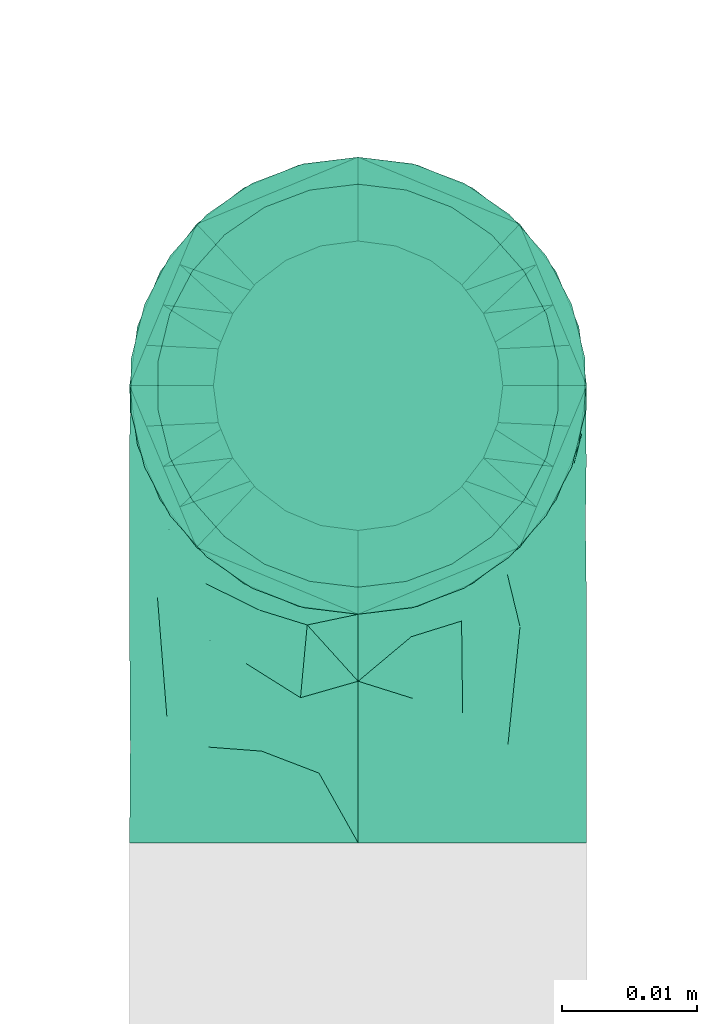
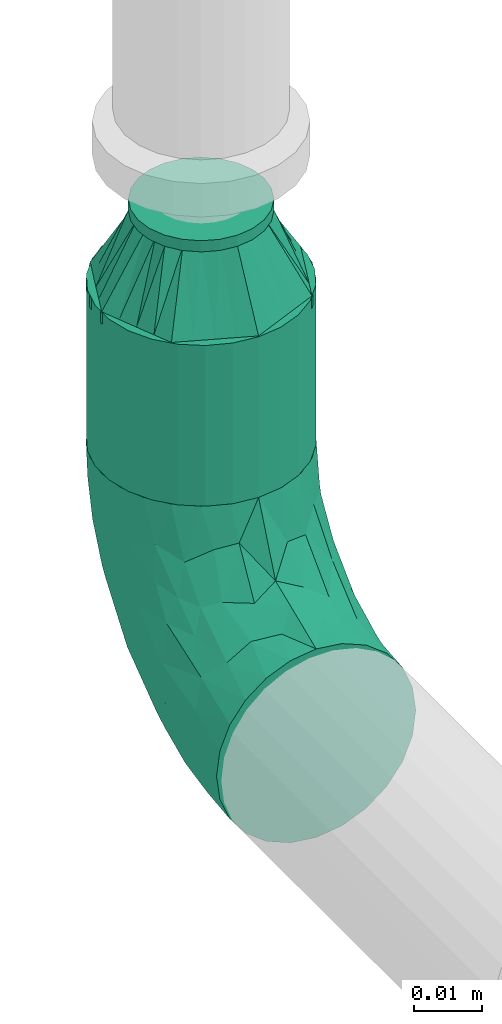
# One storey, part 11 of 94: 2 flow fittings, 1 flow segment.
"""IFC2X3 building model written with IfcOpenShell, lengths in millimetres."""

from ifc_helpers import new_model, entity, si_unit, converted_unit, derived_unit, direction, frame, origin_with_axes, origin_2d_with_axis, place, context, subcontext, project, spatial, hollow_circle, extrude, open_shell, surface_model, source, transform, mapped, type_object, element, save


model = new_model("IFC2X3")

# Units and contexts
model_context = context("Model", 3, precision=0.01, world=frame((0.0, 4.29681676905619e-09, 0.0)), true_north=direction((4.01073788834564e-13, 1.0)))
plan_context = context("Plan", 3, precision=0.01, world=frame((0.0, 4.29681676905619e-09, 0.0)), true_north=direction((4.01073788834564e-13, 1.0)))
body_context = subcontext(model_context, "Body", "Model", "MODEL_VIEW")
ifc_project = project(units=[converted_unit("PLANEANGLEUNIT", "DEGREE", entity("IfcPositiveLengthMeasure", 0.0174532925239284), si_unit("PLANEANGLEUNIT", "RADIAN"), dimensions=[0, 0, 0, 0, 0, 0, 0]), si_unit("AREAUNIT", "SQUARE_METRE"), si_unit("LENGTHUNIT", "METRE", prefix="MILLI"), si_unit("MASSUNIT", "GRAM", prefix="KILO"), si_unit("POWERUNIT", "WATT"), si_unit("PRESSUREUNIT", "PASCAL"), si_unit("FORCEUNIT", "NEWTON", prefix="KILO"), si_unit("ELECTRICCURRENTUNIT", "AMPERE"), si_unit("THERMODYNAMICTEMPERATUREUNIT", "DEGREE_CELSIUS"), si_unit("TIMEUNIT", "SECOND"), si_unit("VOLUMEUNIT", "CUBIC_METRE"), derived_unit("LINEARVELOCITYUNIT", [(si_unit("LENGTHUNIT", "METRE"), 1), (si_unit("TIMEUNIT", "SECOND"), -1)]), derived_unit("VOLUMETRICFLOWRATEUNIT", [(si_unit("VOLUMEUNIT", "CUBIC_METRE"), 1), (si_unit("TIMEUNIT", "SECOND"), -1)]), derived_unit("THERMALTRANSMITTANCEUNIT", [(si_unit("POWERUNIT", "WATT"), 1), (si_unit("THERMODYNAMICTEMPERATUREUNIT", "KELVIN"), -1), (si_unit("AREAUNIT", "SQUARE_METRE"), -1)])], contexts=[model_context, plan_context])

# Site, building, storey
site_placement = place(None, frame((0.0, -4.29681676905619e-09, 0.0), z_axis=(0.0, 0.0, 1.0), x_axis=(1.0, 0.0, 0.0)))
site = spatial("IfcSite", under=ifc_project, at=site_placement, CompositionType="ELEMENT")
building_placement = place(site_placement, frame((0.0, 4.29681676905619e-09, 0.0), z_axis=(0.0, 0.0, 1.0), x_axis=(1.0, 0.0, 0.0)))
building = spatial("IfcBuilding", under=site, at=building_placement, Name="mc-building", CompositionType="ELEMENT")
storey_placement = place(building_placement, frame((0.0, 0.0, 200300.0), z_axis=(0.0, 0.0, 1.0), x_axis=(1.0, 0.0, 0.0)))
storey = spatial("IfcBuildingStorey", under=building, at=storey_placement, Name="Nivå C", CompositionType="ELEMENT", Elevation=200300.0)

# Flow fittings
pipe_fitting_type_1 = type_object("IfcPipeFittingType", Name="magi_pipe_fe_reducer_centric_short_NOR", PredefinedType="TRANSITION")
shared_shape_1 = source(origin_with_axes(), body_context, "Body", "SurfaceModel", [
    surface_model("IfcShellBasedSurfaceModel", [(14.4, 5.35, -9.26647), (14.4, 0.0, -10.7), (14.4, 2.76936, -10.33541), (14.4, 10.33541, -2.76936), (14.4, 7.56604, -7.56604), (14.4, -10.33541, -2.76936), (14.4, 9.26647, -5.35), (14.4, 0.0, 10.7), (14.4, -5.35, -9.26647), (14.4, -2.76936, -10.33541), (14.4, -7.56604, -7.56604), (14.4, -9.26647, -5.35), (14.4, 10.7, 0.0), (14.4, 10.33541, 2.76936), (14.4, 9.26647, 5.35), (14.4, 7.56604, 7.56604), (14.4, 2.76936, 10.33541), (14.4, 5.35, 9.26647), (14.4, -10.33541, 2.76936), (14.4, -7.56604, 7.56604), (14.4, -9.26647, 5.35), (14.4, -10.7, 0.0), (14.4, -2.76936, 10.33541), (14.4, -5.35, 9.26647), (12.4, 2.76936, 10.33541), (12.4, -10.33541, -2.76936), (12.4, 0.0, 10.7), (12.4, 5.35, 9.26647), (12.4, 7.56604, 7.56604), (12.4, 9.26647, 5.35), (12.4, 10.33541, 2.76936), (12.4, -10.33541, 2.76936), (12.4, -2.76936, 10.33541), (12.4, -7.56604, 7.56604), (12.4, -5.35, 9.26647), (12.4, -9.26647, 5.35), (12.4, -10.7, 0.0), (12.4, 10.33541, -2.76936), (12.4, 5.35, -9.26647), (12.4, 9.26647, -5.35), (12.4, 7.56604, -7.56604), (12.4, 2.76936, -10.33541), (12.4, -9.26647, -5.35), (12.4, -5.35, -9.26647), (12.4, -7.56604, -7.56604), (12.4, 0.0, -10.7), (12.4, -2.76936, -10.33541), (12.4, 10.7, 0.0), (-2.0, 11.9501, 11.9501), (-2.0, 0.0, 16.9), (-2.0, 4.37404, 16.32415), (-2.0, 8.45, 14.63583), (-2.0, 14.63583, 8.45), (-2.0, 16.32415, 4.37404), (-2.0, -16.32415, 4.37404), (-2.0, -8.45, 14.63583), (-2.0, -14.63583, 8.45), (-2.0, -11.9501, 11.9501), (-2.0, -4.37404, 16.32415), (-2.0, -16.32415, -4.37404), (-2.0, -16.9, 0.0), (-2.0, -8.45, -14.63583), (-2.0, 16.32415, -4.37404), (-2.0, 11.9501, -11.9501), (-2.0, 14.63583, -8.45), (-2.0, 8.45, -14.63583), (-2.0, 4.37404, -16.32415), (-2.0, 0.0, -16.9), (-2.0, -11.9501, -11.9501), (-2.0, -14.63583, -8.45), (-2.0, -4.37404, -16.32415), (-2.0, 16.9, 0.0), (0.0, 4.37404, -16.32415), (0.0, 8.45, -14.63583), (0.0, 11.9501, -11.9501), (0.0, 0.0, -16.9), (0.0, 16.32415, -4.37404), (0.0, 16.32415, 4.37404), (0.0, 14.63583, -8.45), (0.0, -8.45, -14.63583), (0.0, -4.37404, -16.32415), (0.0, -11.9501, -11.9501), (0.0, -16.32415, -4.37404), (0.0, -14.63583, -8.45), (0.0, -16.32415, 4.37404), (0.0, 16.9, 0.0), (0.0, 14.63583, 8.45), (0.0, 11.9501, 11.9501), (0.0, 4.37404, 16.32415), (0.0, 8.45, 14.63583), (0.0, 0.0, 16.9), (0.0, -14.63583, 8.45), (0.0, -16.9, 0.0), (0.0, -8.45, 14.63583), (0.0, -11.9501, 11.9501), (0.0, -4.37404, 16.32415), (12.4, 9.3625, -2.31662), (0.0, 14.42505, -5.97505), (0.0, 15.66253, -2.98753), (12.4, -6.6875, -6.94985), (0.0, -13.18758, -8.96258), (0.0, 2.98753, -15.66253), (12.4, 0.0, -9.26647), (12.4, 6.6875, -6.94985), (0.0, 8.96258, -13.18758), (12.4, -9.3625, -2.31662), (0.0, -15.66253, -2.98753), (0.0, -14.42505, -5.97505), (0.0, 5.97505, -14.42505), (0.0, -2.98753, -15.66253), (0.0, -8.96258, -13.18758), (0.0, 13.18758, -8.96258), (12.4, 8.025, -4.63324), (12.4, -2.675, -9.26647), (12.4, 2.675, -9.26647), (0.0, -5.97505, -14.42505), (12.4, -8.025, -4.63324), (12.4, -9.3625, 2.31662), (0.0, -14.42505, 5.97505), (0.0, -15.66253, 2.98753), (12.4, 6.6875, 6.94985), (0.0, 13.18758, 8.96258), (0.0, -2.98753, 15.66253), (12.4, 0.0, 9.26647), (12.4, -6.6875, 6.94985), (0.0, -8.96258, 13.18758), (12.4, 9.3625, 2.31662), (0.0, 15.66253, 2.98753), (0.0, 14.42505, 5.97505), (0.0, -5.97505, 14.42505), (0.0, 2.98753, 15.66253), (0.0, 8.96258, 13.18758), (0.0, -13.18758, 8.96258), (12.4, -8.025, 4.63324), (12.4, 2.675, 9.26647), (12.4, -2.675, 9.26647), (0.0, 5.97505, 14.42505), (12.4, 8.025, 4.63324)], [open_shell([[[0, 1, 2]], [[3, 0, 4]], [[5, 0, 3]], [[3, 4, 6]], [[7, 5, 3]], [[1, 8, 9]], [[1, 0, 8]], [[10, 5, 11]], [[5, 10, 8]], [[0, 5, 8]], [[3, 12, 13]], [[13, 14, 15]], [[13, 15, 16]], [[7, 3, 16]], [[16, 15, 17]], [[7, 18, 5]], [[18, 19, 20]], [[21, 5, 18]], [[19, 22, 23]], [[22, 19, 18]], [[7, 22, 18]], [[13, 16, 3]], [[24, 25, 26]], [[27, 25, 24]], [[28, 29, 30]], [[28, 25, 27]], [[31, 26, 25]], [[32, 33, 34]], [[33, 32, 31]], [[33, 31, 35]], [[32, 26, 31]], [[31, 25, 36]], [[30, 37, 28]], [[25, 28, 37]], [[38, 37, 39]], [[37, 38, 25]], [[38, 39, 40]], [[41, 25, 38]], [[42, 43, 44]], [[43, 42, 25]], [[43, 45, 46]], [[43, 25, 41]], [[41, 45, 43]], [[37, 30, 47]], [[25, 5, 36]], [[42, 11, 25]], [[8, 44, 43]], [[42, 44, 10]], [[9, 43, 46]], [[25, 11, 5]], [[5, 21, 36]], [[9, 8, 43]], [[10, 44, 8]], [[10, 11, 42]], [[1, 9, 46]], [[46, 45, 1]], [[41, 2, 45]], [[38, 0, 41]], [[6, 40, 39]], [[38, 40, 4]], [[3, 39, 37]], [[38, 4, 0]], [[0, 2, 41]], [[12, 3, 37]], [[6, 39, 3]], [[6, 4, 40]], [[47, 12, 37]], [[45, 2, 1]], [[30, 13, 47]], [[29, 14, 30]], [[17, 28, 27]], [[29, 28, 15]], [[16, 27, 24]], [[30, 14, 13]], [[13, 12, 47]], [[16, 17, 27]], [[15, 28, 17]], [[15, 14, 29]], [[7, 16, 24]], [[24, 26, 7]], [[32, 22, 26]], [[34, 23, 32]], [[20, 33, 35]], [[34, 33, 19]], [[18, 35, 31]], [[34, 19, 23]], [[23, 22, 32]], [[21, 18, 31]], [[20, 35, 18]], [[20, 19, 33]], [[36, 21, 31]], [[26, 22, 7]], [[48, 49, 50]], [[48, 50, 51]], [[48, 52, 53]], [[48, 53, 49]], [[49, 53, 54]], [[55, 56, 57]], [[55, 58, 49]], [[56, 55, 49]], [[49, 54, 56]], [[54, 59, 60]], [[54, 53, 61]], [[53, 62, 63]], [[63, 62, 64]], [[63, 65, 66]], [[61, 53, 63]], [[67, 63, 66]], [[59, 68, 69]], [[68, 59, 61]], [[61, 67, 70]], [[59, 54, 61]], [[63, 67, 61]], [[53, 71, 62]], [[72, 73, 74]], [[75, 72, 74]], [[74, 76, 77]], [[76, 74, 78]], [[74, 77, 79]], [[75, 79, 80]], [[75, 74, 79]], [[81, 82, 83]], [[82, 81, 79]], [[79, 84, 82]], [[77, 76, 85]], [[77, 86, 87]], [[77, 87, 88]], [[88, 84, 79]], [[88, 87, 89]], [[84, 88, 90]], [[90, 91, 84]], [[92, 82, 84]], [[91, 93, 94]], [[91, 90, 93]], [[93, 90, 95]], [[79, 77, 88]], [[59, 82, 60]], [[69, 83, 59]], [[79, 68, 61]], [[69, 68, 81]], [[80, 61, 70]], [[59, 83, 82]], [[82, 92, 60]], [[80, 79, 61]], [[81, 68, 79]], [[81, 83, 69]], [[75, 80, 70]], [[70, 67, 75]], [[66, 72, 67]], [[65, 73, 66]], [[78, 63, 64]], [[65, 63, 74]], [[76, 64, 62]], [[65, 74, 73]], [[73, 72, 66]], [[85, 76, 62]], [[78, 64, 76]], [[78, 74, 63]], [[71, 85, 62]], [[67, 72, 75]], [[53, 77, 71]], [[52, 86, 53]], [[89, 48, 51]], [[52, 48, 87]], [[88, 51, 50]], [[53, 86, 77]], [[77, 85, 71]], [[88, 89, 51]], [[87, 48, 89]], [[87, 86, 52]], [[90, 88, 50]], [[50, 49, 90]], [[58, 95, 49]], [[55, 93, 58]], [[91, 57, 56]], [[55, 57, 94]], [[84, 56, 54]], [[55, 94, 93]], [[93, 95, 58]], [[92, 84, 54]], [[91, 56, 84]], [[91, 94, 57]], [[60, 92, 54]], [[49, 95, 90]], [[27, 34, 47]], [[47, 34, 43]], [[43, 38, 47]], [[43, 34, 36]], [[90, 87, 94]], [[92, 94, 87]], [[87, 74, 92]], [[75, 92, 74]], [[81, 92, 75]], [[74, 87, 85]], [[96, 97, 98]], [[81, 99, 100]], [[101, 102, 75]], [[98, 85, 47]], [[74, 103, 104]], [[104, 103, 38]], [[105, 106, 107]], [[38, 108, 104]], [[102, 109, 75]], [[110, 99, 81]], [[47, 96, 98]], [[103, 111, 112]], [[109, 102, 113]], [[36, 92, 106]], [[102, 101, 114]], [[110, 115, 43]], [[96, 112, 97]], [[107, 116, 105]], [[36, 106, 105]], [[113, 115, 109]], [[43, 115, 113]], [[116, 107, 100]], [[108, 38, 114]], [[111, 103, 74]], [[111, 97, 112]], [[99, 110, 43]], [[116, 100, 99]], [[101, 108, 114]], [[117, 118, 119]], [[87, 120, 121]], [[122, 123, 90]], [[119, 92, 36]], [[94, 124, 125]], [[125, 124, 34]], [[126, 127, 128]], [[34, 129, 125]], [[123, 130, 90]], [[131, 120, 87]], [[36, 117, 119]], [[124, 132, 133]], [[130, 123, 134]], [[47, 85, 127]], [[123, 122, 135]], [[131, 136, 27]], [[117, 133, 118]], [[128, 137, 126]], [[47, 127, 126]], [[134, 136, 130]], [[27, 136, 134]], [[137, 128, 121]], [[129, 34, 135]], [[132, 124, 94]], [[132, 118, 133]], [[120, 131, 27]], [[137, 121, 120]], [[122, 129, 135]]])]),
])
flow_fitting_1_placement = place(storey_placement, frame((521496.81783, 403933.19532, 2962.64799999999), z_axis=(-1.0, 0.0, 0.0), x_axis=(0.0, 0.0, 1.0)))
element("IfcFlowFitting", 1, at=flow_fitting_1_placement, inside=storey, type_object=pipe_fitting_type_1, Name="magi_pipe_fe_reducer_centric_short_NOR", context=body_context, shape_type="MappedRepresentation", body=[
    mapped(shared_shape_1, transform((0.0, 0.0, 0.0), scale=1.0)),
])
pipe_fitting_type_2 = type_object("IfcPipeFittingType", Name="magi_pipe_fe_elbow_short_001", PredefinedType="BEND")
shared_shape_2 = source(origin_with_axes(), body_context, "Body", "SurfaceModel", [
    surface_model("IfcShellBasedSurfaceModel", [(-33.8, 8.45, -14.63583), (-33.8, 4.37404, -16.32415), (-33.8, 11.9501, -11.9501), (-33.8, -11.9501, -11.9501), (-33.8, -14.63583, -8.45), (-33.8, -8.45, -14.63583), (-33.8, 0.0, -16.9), (-33.8, -4.37404, -16.32415), (-33.8, -4.37404, 16.32415), (-33.8, 0.0, 16.9), (-33.8, -8.45, 14.63583), (-33.8, 16.32415, -4.37404), (-33.8, 14.63583, -8.45), (-33.8, -16.32415, -4.37404), (-33.8, -16.9, 0.0), (-33.8, -16.32415, 4.37404), (-33.8, 11.9501, 11.9501), (-33.8, 14.63583, 8.45), (-33.8, 16.32415, 4.37404), (-33.8, 4.37404, 16.32415), (-33.8, 8.45, 14.63583), (-33.8, -14.63583, 8.45), (-33.8, -11.9501, 11.9501), (-33.8, 16.9, 0.0), (-11.9501, 33.8, -11.9501), (0.0, 33.8, -16.9), (-4.37404, 33.8, -16.32415), (-8.45, 33.8, -14.63583), (-14.63583, 33.8, -8.45), (-16.32415, 33.8, -4.37404), (14.63583, 33.8, -8.45), (8.45, 33.8, 14.63583), (16.32415, 33.8, -4.37404), (8.45, 33.8, -14.63583), (11.9501, 33.8, -11.9501), (4.37404, 33.8, -16.32415), (16.32415, 33.8, 4.37404), (16.9, 33.8, 0.0), (-11.9501, 33.8, 11.9501), (-16.32415, 33.8, 4.37404), (-14.63583, 33.8, 8.45), (-8.45, 33.8, 14.63583), (-4.37404, 33.8, 16.32415), (11.9501, 33.8, 11.9501), (14.63583, 33.8, 8.45), (0.0, 33.8, 16.9), (4.37404, 33.8, 16.32415), (-16.9, 33.8, 0.0), (-24.79389, -13.12945, 9.48721), (-22.19287, -9.75018, 12.59315), (-24.09897, -14.97035, 0.0), (-14.93934, -10.76256, 8.5297), (-22.46095, -14.75051, 5.27077), (14.75051, 22.46094, 5.27077), (11.9251, 13.23888, 4.33236), (13.04069, 14.39795, 0.0), (7.71387, 13.68847, 11.55891), (9.75018, 22.19287, 12.59315), (4.10169, 13.0571, 14.04018), (-24.84007, -6.39063, 15.2048), (-25.81779, -2.23879, 16.61097), (-23.66549, 2.59054, 16.87119), (-26.50418, 14.06512, 11.08152), (-24.21253, 17.66365, 7.72657), (-29.58514, 15.86957, 7.00283), (-6.17382, -7.5455, 0.0), (-13.23888, -11.9251, 4.33236), (-14.39795, -13.04069, 0.0), (-17.81434, 18.87373, 11.97104), (-6.30846, 29.15138, 15.82987), (-2.31622, 25.28002, 16.85849), (-29.23923, 10.23435, 13.77053), (-1.45439, -2.85688, 7.61475), (-0.28326, 0.34872, 10.09509), (-5.74484, -4.04709, 10.4122), (-4.41137, 11.31918, 16.59407), (-8.39727, 3.10034, 15.7812), (-1.72649, 9.1306, 15.53089), (-17.39909, 24.75344, 7.64977), (-26.19233, 20.0512, 0.0), (-28.14518, 17.29657, 4.25857), (-26.05147, 6.6281, 15.96447), (-5.87354, 16.61944, 16.86968), (-12.51807, 12.51807, 16.48937), (-10.06312, 7.38516, 16.81295), (-3.01882, 3.01882, 13.81718), (-13.0571, -4.10169, 14.04018), (-16.82553, -0.15166, 16.38038), (10.76256, 14.93934, 8.5297), (13.12945, 24.79389, 9.48721), (6.39063, 24.84007, 15.2048), (2.23879, 25.81779, 16.61097), (-13.68847, -7.71387, 11.55891), (14.97035, 24.09897, 0.0), (-7.30894, 22.89991, 16.09489), (-10.67958, 26.17414, 14.008), (-12.78295, 18.26924, 15.06066), (-13.88562, 22.45231, 12.93244), (-18.04944, 15.16501, 14.04434), (-23.11658, 20.08178, 4.02986), (-21.84989, 21.84989, 0.0), (-18.55817, 25.48277, 3.93065), (-13.95142, 26.94732, 11.03289), (-18.57098, 7.23906, 16.59756), (-16.58335, 4.14122, 16.89279), (-17.96666, 11.46709, 15.63151), (-9.84453, 17.54304, 16.18938), (0.15166, 16.82553, 16.38038), (-23.27207, 11.47201, 14.23154), (3.84842, 5.86994, 10.70473), (-8.0212, -7.54413, 7.93275), (1.00345, -2.19508, 4.57414), (5.13203, 3.01004, 5.90201), (5.24161, 1.7543, 2.53265), (8.70457, 7.04947, 3.99182), (-20.0512, 26.19233, 0.0), (8.4852, 8.76699, 7.09296), (-4.55488, -6.72064, 4.90681), (2.05031, -2.05031, 0.0), (7.5455, 6.17382, 0.0), (-26.75399, 2.1369, -16.845), (-14.61995, 24.73803, -11.27736), (-28.45274, -13.45335, -9.81895), (-26.00469, 6.63555, -15.96645), (-23.06726, 20.04573, -4.26202), (-13.80647, -4.26506, -14.17873), (-14.67501, -0.21081, -16.07388), (-6.7902, -0.2828, -13.8478), (-24.53586, 11.08096, -14.13417), (-26.72048, 14.00837, -11.05776), (10.0967, 24.44989, -12.75976), (5.83237, 21.40218, -15.03047), (6.66249, 28.54238, -15.38093), (-20.38182, 15.48705, -12.74596), (12.53268, 21.23441, -9.15363), (12.54494, 15.67504, -5.54878), (9.7522, 12.89279, -8.66343), (-15.65186, 19.64213, -13.01327), (-12.03528, 20.66498, -14.67665), (-15.61907, 15.61906, -14.83879), (-25.56551, -15.26206, 0.0), (-24.65452, -15.12934, -5.50955), (13.45335, 28.45274, -9.81895), (15.12934, 24.65452, -5.50955), (-7.35442, -8.31014, -5.65563), (-15.67504, -12.54494, -5.54878), (-24.44989, -10.0967, -12.75976), (0.16522, 0.41303, -9.71728), (-5.70658, -5.33066, -8.89288), (-5.13869, -2.37198, -11.53565), (-21.23441, -12.53268, -9.15363), (0.71146, 7.93863, -14.09382), (0.21081, 14.67501, -16.07388), (3.49291, 14.42772, -14.76381), (-24.89911, -2.13088, -16.591), (-28.54238, -6.66249, -15.38093), (-18.44386, -7.71663, -13.26957), (2.13088, 24.89911, -16.591), (-28.64342, 17.44413, -2.89318), (1.70017, -1.28722, -5.09504), (-16.57067, 26.81947, -7.36596), (-17.69055, 27.4263, -3.76405), (-12.89279, -9.7522, -8.66343), (-5.96611, 5.96611, -15.95814), (-20.53709, 20.09345, -8.28985), (-2.1369, 26.75399, -16.845), (-6.89872, 24.58781, -16.02578), (-10.60739, 26.53157, -13.98044), (-21.40218, -5.83237, -15.03047), (2.93192, 5.89627, -11.55917), (6.89393, 12.61842, -11.82233), (5.58056, 5.95325, -8.79455), (-3.99512, 18.61798, -16.89635), (8.31014, 7.35442, -5.65563), (-9.1383, 9.86148, -16.89041), (-9.99983, 16.02119, -16.39699), (-16.68576, 9.78031, -16.34199), (-27.01915, 16.61158, -7.12979), (15.26206, 25.56551, 0.0), (-18.61798, 3.99512, -16.89635), (-19.37495, 27.82495, 0.0), (-12.61842, -6.89393, -11.82233), (-18.84705, 19.14018, -10.96545)], [open_shell([[[0, 1, 2]], [[3, 4, 5]], [[6, 7, 5]], [[8, 9, 10]], [[1, 6, 2]], [[11, 12, 2]], [[4, 2, 6]], [[2, 13, 10]], [[5, 4, 6]], [[2, 4, 13]], [[14, 15, 13]], [[11, 2, 16]], [[11, 17, 18]], [[11, 16, 17]], [[19, 20, 16]], [[16, 2, 10]], [[19, 16, 10]], [[21, 22, 15]], [[22, 13, 15]], [[22, 10, 13]], [[10, 9, 19]], [[11, 18, 23]], [[24, 25, 26]], [[24, 26, 27]], [[24, 28, 29]], [[25, 24, 30]], [[31, 32, 24]], [[33, 30, 34]], [[33, 35, 25]], [[25, 30, 33]], [[32, 30, 24]], [[32, 36, 37]], [[38, 24, 29]], [[39, 40, 29]], [[40, 38, 29]], [[38, 41, 42]], [[38, 31, 24]], [[31, 38, 42]], [[36, 43, 44]], [[36, 32, 43]], [[31, 45, 46]], [[32, 31, 43]], [[42, 45, 31]], [[39, 29, 47]], [[22, 48, 49]], [[15, 14, 50]], [[51, 48, 52]], [[53, 54, 55]], [[48, 22, 21]], [[15, 52, 21]], [[56, 57, 58]], [[49, 10, 22]], [[49, 59, 10]], [[9, 60, 61]], [[62, 63, 64]], [[65, 66, 67]], [[57, 43, 31]], [[62, 68, 63]], [[42, 69, 70]], [[20, 71, 16]], [[8, 60, 9]], [[72, 73, 74]], [[75, 76, 77]], [[16, 62, 17]], [[40, 39, 78]], [[79, 23, 80]], [[64, 18, 17]], [[9, 61, 19]], [[19, 81, 20]], [[82, 83, 84]], [[74, 85, 86]], [[59, 86, 87]], [[88, 89, 57]], [[90, 31, 46]], [[44, 53, 36]], [[46, 45, 91]], [[54, 53, 88]], [[44, 89, 53]], [[92, 86, 49]], [[89, 44, 43]], [[10, 59, 8]], [[53, 55, 93]], [[93, 36, 53]], [[66, 52, 67]], [[94, 82, 70]], [[95, 96, 94]], [[97, 98, 96]], [[79, 99, 100]], [[41, 38, 95]], [[101, 100, 99]], [[68, 78, 63]], [[42, 41, 69]], [[23, 18, 80]], [[95, 94, 69]], [[78, 101, 99]], [[38, 102, 95]], [[70, 45, 42]], [[97, 95, 102]], [[15, 50, 52]], [[90, 57, 31]], [[57, 90, 58]], [[81, 19, 61]], [[103, 104, 84]], [[105, 81, 103]], [[38, 40, 102]], [[106, 96, 83]], [[94, 106, 82]], [[91, 70, 107]], [[71, 62, 16]], [[62, 108, 98]], [[86, 59, 49]], [[67, 52, 50]], [[60, 59, 87]], [[92, 49, 51]], [[86, 85, 76]], [[91, 90, 46]], [[37, 36, 93]], [[107, 77, 58]], [[107, 58, 90]], [[58, 85, 109]], [[110, 74, 92]], [[72, 74, 110]], [[66, 51, 52]], [[72, 111, 112]], [[113, 114, 112]], [[56, 88, 57]], [[52, 48, 21]], [[49, 48, 51]], [[57, 89, 43]], [[53, 89, 88]], [[103, 81, 61]], [[71, 81, 108]], [[18, 64, 80]], [[63, 78, 99]], [[47, 115, 101]], [[101, 115, 100]], [[40, 78, 102]], [[68, 102, 78]], [[97, 96, 95]], [[105, 98, 108]], [[103, 84, 83]], [[107, 70, 82]], [[76, 84, 87]], [[82, 84, 75]], [[70, 91, 45]], [[90, 91, 107]], [[59, 60, 8]], [[61, 60, 87]], [[73, 85, 74]], [[109, 112, 116]], [[103, 61, 104]], [[105, 103, 83]], [[96, 105, 83]], [[81, 105, 108]], [[96, 98, 105]], [[62, 98, 68]], [[61, 87, 104]], [[87, 84, 104]], [[86, 76, 87]], [[77, 76, 85]], [[58, 77, 85]], [[75, 77, 107]], [[82, 75, 107]], [[76, 75, 84]], [[81, 71, 20]], [[62, 71, 108]], [[95, 69, 41]], [[70, 69, 94]], [[62, 64, 17]], [[80, 63, 99]], [[63, 80, 64]], [[80, 99, 79]], [[66, 65, 117]], [[110, 66, 117]], [[112, 114, 116]], [[118, 117, 65]], [[110, 92, 51]], [[112, 111, 113]], [[119, 55, 54]], [[74, 86, 92]], [[58, 109, 56]], [[116, 56, 109]], [[66, 110, 51]], [[72, 110, 117]], [[111, 72, 117]], [[73, 112, 109]], [[117, 118, 111]], [[113, 111, 118]], [[118, 119, 113]], [[114, 119, 54]], [[119, 114, 113]], [[116, 54, 88]], [[54, 116, 114]], [[116, 88, 56]], [[112, 73, 72]], [[85, 73, 109]], [[78, 39, 101]], [[47, 101, 39]], [[102, 68, 97]], [[97, 68, 98]], [[82, 106, 83]], [[94, 96, 106]], [[1, 120, 6]], [[28, 24, 121]], [[3, 122, 4]], [[0, 123, 1]], [[100, 124, 79]], [[125, 126, 127]], [[128, 2, 129]], [[130, 131, 132]], [[128, 129, 133]], [[134, 135, 136]], [[137, 138, 139]], [[128, 0, 2]], [[67, 140, 141]], [[134, 142, 143]], [[141, 13, 4]], [[144, 65, 145]], [[146, 3, 5]], [[147, 148, 149]], [[145, 141, 150]], [[151, 152, 153]], [[154, 7, 6]], [[5, 155, 146]], [[150, 146, 156]], [[155, 5, 7]], [[143, 135, 134]], [[35, 157, 25]], [[23, 79, 158]], [[148, 159, 144]], [[160, 161, 29]], [[145, 162, 144]], [[163, 152, 151]], [[29, 28, 160]], [[121, 164, 160]], [[33, 34, 130]], [[25, 165, 26]], [[26, 165, 166]], [[142, 34, 30]], [[24, 27, 167]], [[124, 161, 164]], [[157, 35, 132]], [[155, 154, 168]], [[123, 0, 128]], [[169, 170, 171]], [[172, 157, 152]], [[26, 166, 27]], [[132, 35, 33]], [[142, 130, 34]], [[168, 154, 126]], [[136, 135, 173]], [[133, 137, 139]], [[2, 12, 129]], [[170, 131, 130]], [[30, 32, 143]], [[172, 174, 175]], [[176, 123, 128]], [[158, 177, 11]], [[135, 55, 119]], [[167, 27, 166]], [[175, 166, 172]], [[137, 167, 138]], [[122, 141, 4]], [[140, 14, 13]], [[32, 37, 178]], [[170, 130, 134]], [[152, 157, 131]], [[165, 157, 172]], [[153, 170, 151]], [[152, 163, 174]], [[168, 125, 156]], [[122, 146, 150]], [[120, 154, 6]], [[179, 174, 126]], [[179, 126, 154]], [[126, 163, 127]], [[162, 145, 150]], [[140, 13, 141]], [[32, 178, 143]], [[55, 143, 178]], [[177, 129, 12]], [[128, 133, 139]], [[176, 128, 139]], [[120, 123, 179]], [[121, 160, 28]], [[161, 100, 180]], [[166, 175, 138]], [[121, 24, 167]], [[161, 47, 29]], [[79, 124, 158]], [[124, 164, 177]], [[161, 124, 100]], [[136, 171, 170]], [[127, 163, 151]], [[147, 171, 159]], [[148, 144, 162]], [[127, 151, 169]], [[127, 181, 125]], [[129, 177, 164]], [[12, 11, 177]], [[159, 65, 144]], [[67, 141, 145]], [[143, 55, 135]], [[135, 119, 173]], [[123, 120, 1]], [[154, 120, 179]], [[157, 165, 25]], [[166, 165, 172]], [[172, 152, 174]], [[176, 139, 175]], [[126, 174, 163]], [[176, 174, 179]], [[174, 176, 175]], [[123, 176, 179]], [[150, 181, 162]], [[127, 149, 181]], [[181, 148, 162]], [[159, 148, 147]], [[171, 136, 173]], [[170, 134, 136]], [[159, 171, 173]], [[171, 147, 169]], [[169, 147, 149]], [[151, 170, 169]], [[164, 182, 129]], [[182, 121, 137]], [[181, 149, 148]], [[169, 149, 127]], [[182, 137, 133]], [[167, 137, 121]], [[166, 138, 167]], [[175, 139, 138]], [[129, 182, 133]], [[121, 182, 164]], [[161, 160, 164]], [[47, 161, 180]], [[177, 158, 124]], [[23, 158, 11]], [[130, 132, 33]], [[157, 132, 131]], [[143, 142, 30]], [[130, 142, 134]], [[154, 155, 7]], [[146, 155, 168]], [[146, 122, 3]], [[141, 122, 150]], [[152, 131, 153]], [[159, 119, 118]], [[67, 145, 65]], [[170, 153, 131]], [[119, 159, 173]], [[159, 118, 65]], [[156, 125, 181]], [[126, 125, 168]], [[150, 156, 181]], [[168, 156, 146]]])]),
])
flow_fitting_2_placement = place(storey_placement, frame((521496.81783, 403933.19532, 2900.0), z_axis=(1.0, 0.0, 0.0), x_axis=(0.0, 1.0, 0.0)))
element("IfcFlowFitting", 2, at=flow_fitting_2_placement, inside=storey, type_object=pipe_fitting_type_2, Name="magi_pipe_fe_elbow_short_001", context=body_context, shape_type="MappedRepresentation", body=[
    mapped(shared_shape_2, transform((0.0, 0.0, 0.0), scale=1.0)),
])

# Flow segment
pipe_segment_type = type_object("IfcPipeSegmentType", Name="Stålrør normaltykke", PredefinedType="RIGIDSEGMENT")
shared_shape_3 = source(origin_with_axes(), body_context, "Body", "SweptSolid", [
    extrude(hollow_circle(Radius=16.9, WallThickness=2.0, at=origin_2d_with_axis()), frame((0.0, 0.0, 0.0), z_axis=(1.0, 0.0, 0.0), x_axis=(0.0, 1.0, 0.0)), (0.0, 0.0, 1.0), 28.8),
])
flow_segment_placement = place(storey_placement, frame((521496.81783, 403933.19532, 2933.79999999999), z_axis=(-1.0, 0.0, 0.0), x_axis=(0.0, 0.0, 1.0)))
element("IfcFlowSegment", 3, at=flow_segment_placement, inside=storey, type_object=pipe_segment_type, Name="Stålrør normaltykke", context=body_context, shape_type="MappedRepresentation", body=[
    mapped(shared_shape_3, transform((0.0, 0.0, 0.0), scale=1.0)),
])

save(model, "model.ifc")
